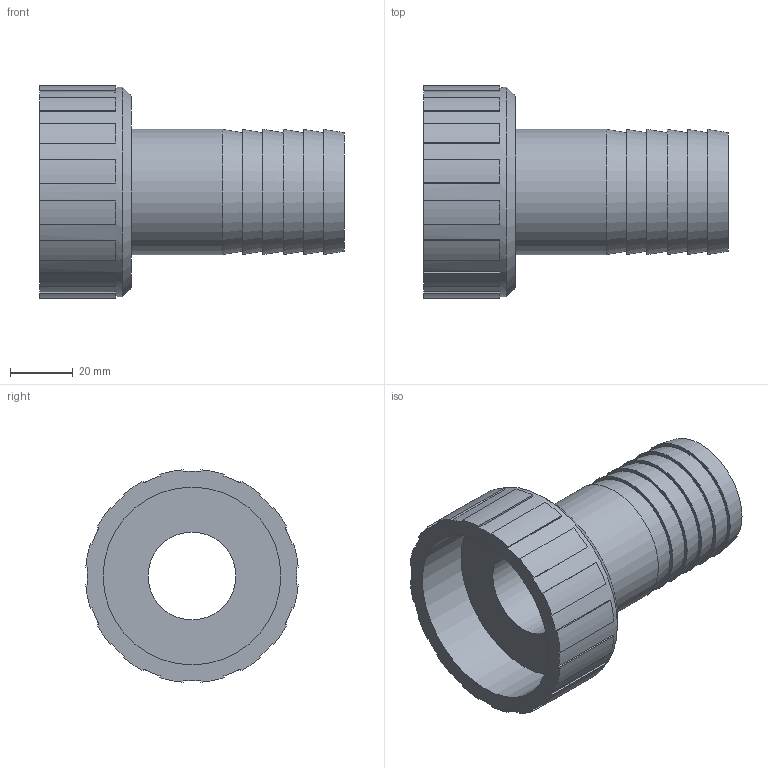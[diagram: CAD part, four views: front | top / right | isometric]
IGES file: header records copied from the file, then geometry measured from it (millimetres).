
Global section: file name: 053602040020.ipt; native system: Autodesk Inventor 2015; preprocessor: unknown; author: KIM; date: 20171207.165544; units: millimetre
Bounding box: 97 x 67.75 x 67.75 mm (x, y, z)
Volume: 92608.9 mm3; surface area: 31297.2 mm2
Topology: 1 solids, 1 shells, 84 faces, 227 edges, 152 vertices
Faces by surface type: plane 57, cylinder 18, cone 7, revolution 2
Full cylindrical faces by diameter (mm): 40 x1, 66.854 x1
